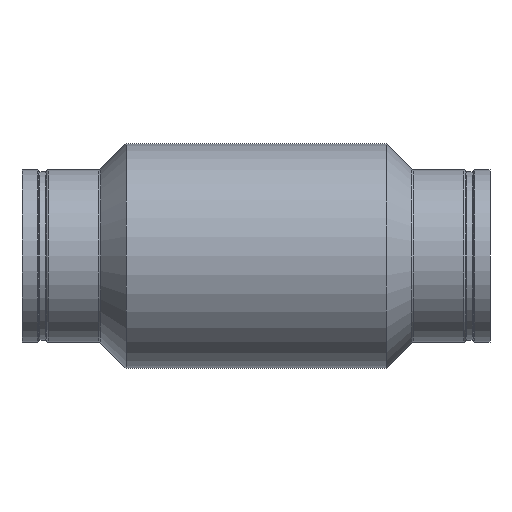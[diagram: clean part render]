
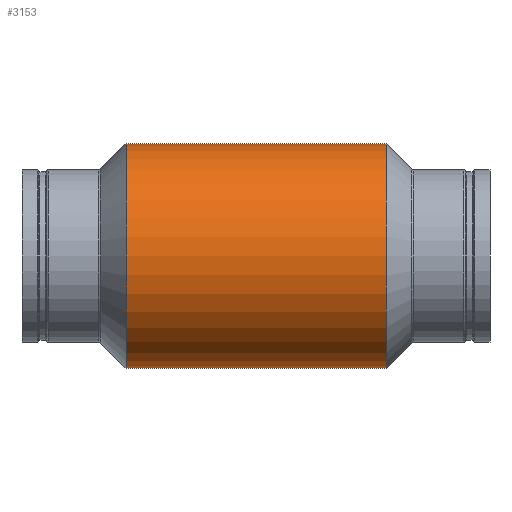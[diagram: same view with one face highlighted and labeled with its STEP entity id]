
A CAD part, front view. The second image highlights one B-rep face of the part: STEP entity #3153.
In plain terms, the highlighted cylindrical face has radius 109.537 mm (diameter 219.075 mm), a full revolution.
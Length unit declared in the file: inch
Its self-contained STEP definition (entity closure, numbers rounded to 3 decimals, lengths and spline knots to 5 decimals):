
#90=FACE_BOUND('',#428,.T.);
#248=FACE_OUTER_BOUND('',#427,.T.);
#427=EDGE_LOOP('',(#2169,#2170,#2171,#2172,#2173,#2174));
#428=EDGE_LOOP('',(#2175,#2176));
#583=B_SPLINE_CURVE_WITH_KNOTS('',3,(#4604,#4605,#4606,#4607,#4608,#4609,
#4610,#4611,#4612,#4613,#4614,#4615,#4616,#4617,#4618,#4619,#4620,#4621),
 .UNSPECIFIED.,.F.,.F.,(4,2,2,2,2,2,2,2,4),(0.85554,1.06944,
1.28335,1.49721,1.71108,1.92494,2.13881,
2.35271,2.56662),.UNSPECIFIED.);
#584=B_SPLINE_CURVE_WITH_KNOTS('',3,(#4627,#4628,#4629,#4630,#4631,#4632,
#4633,#4634,#4635,#4636,#4637,#4638,#4639,#4640,#4641,#4642,#4643,#4644,
#4645),.UNSPECIFIED.,.F.,.F.,(4,2,2,2,3,2,2,2,4),(2.56662,2.78052,
2.99443,3.20829,3.42216,3.63602,3.84989,
4.06379,4.2777),.UNSPECIFIED.);
#670=LINE('',#4844,#843);
#843=VECTOR('',#3936,4.3125);
#1084=CIRCLE('',#3433,4.3125);
#1085=CIRCLE('',#3434,4.3125);
#1086=CIRCLE('',#3436,4.3125);
#1087=CIRCLE('',#3437,4.3125);
#1191=VERTEX_POINT('',#4602);
#1192=VERTEX_POINT('',#4603);
#1257=VERTEX_POINT('',#4834);
#1258=VERTEX_POINT('',#4835);
#1259=VERTEX_POINT('',#4839);
#1260=VERTEX_POINT('',#4840);
#1504=EDGE_CURVE('',#1191,#1192,#583,.T.);
#1508=EDGE_CURVE('',#1192,#1191,#584,.T.);
#1602=EDGE_CURVE('',#1257,#1258,#1084,.T.);
#1603=EDGE_CURVE('',#1258,#1257,#1085,.T.);
#1604=EDGE_CURVE('',#1259,#1260,#1086,.T.);
#1605=EDGE_CURVE('',#1260,#1259,#1087,.T.);
#1606=EDGE_CURVE('',#1260,#1258,#670,.T.);
#2169=ORIENTED_EDGE('',*,*,#1604,.F.);
#2170=ORIENTED_EDGE('',*,*,#1605,.F.);
#2171=ORIENTED_EDGE('',*,*,#1606,.T.);
#2172=ORIENTED_EDGE('',*,*,#1602,.F.);
#2173=ORIENTED_EDGE('',*,*,#1603,.F.);
#2174=ORIENTED_EDGE('',*,*,#1606,.F.);
#2175=ORIENTED_EDGE('',*,*,#1504,.T.);
#2176=ORIENTED_EDGE('',*,*,#1508,.T.);
#2925=CYLINDRICAL_SURFACE('',#3438,4.3125);
#3153=ADVANCED_FACE('',(#248,#90),#2925,.T.);
#3433=AXIS2_PLACEMENT_3D('',#4836,#3924,#3925);
#3434=AXIS2_PLACEMENT_3D('',#4837,#3926,#3927);
#3436=AXIS2_PLACEMENT_3D('',#4841,#3930,#3931);
#3437=AXIS2_PLACEMENT_3D('',#4842,#3932,#3933);
#3438=AXIS2_PLACEMENT_3D('',#4843,#3934,#3935);
#3924=DIRECTION('center_axis',(-1.,0.,0.));
#3925=DIRECTION('ref_axis',(0.,1.,0.));
#3926=DIRECTION('center_axis',(-1.,0.,0.));
#3927=DIRECTION('ref_axis',(0.,1.,0.));
#3930=DIRECTION('center_axis',(1.,0.,0.));
#3931=DIRECTION('ref_axis',(0.,1.,0.));
#3932=DIRECTION('center_axis',(1.,0.,0.));
#3933=DIRECTION('ref_axis',(0.,1.,0.));
#3934=DIRECTION('center_axis',(1.,0.,0.));
#3935=DIRECTION('ref_axis',(0.,1.,0.));
#3936=DIRECTION('',(-1.,0.,0.));
#4602=CARTESIAN_POINT('',(-0.03287,4.35173,0.));
#4603=CARTESIAN_POINT('',(-0.48005,4.35173,0.));
#4604=CARTESIAN_POINT('Ctrl Pts',(-0.03287,4.35173,0.));
#4605=CARTESIAN_POINT('Ctrl Pts',(-0.03287,4.35173,0.02807));
#4606=CARTESIAN_POINT('Ctrl Pts',(-0.03849,4.35142,
0.05801));
#4607=CARTESIAN_POINT('Ctrl Pts',(-0.06132,4.35033,
0.11306));
#4608=CARTESIAN_POINT('Ctrl Pts',(-0.07854,4.34956,
0.13819));
#4609=CARTESIAN_POINT('Ctrl Pts',(-0.11825,4.3481,0.17784));
#4610=CARTESIAN_POINT('Ctrl Pts',(-0.14338,4.34733,0.19502));
#4611=CARTESIAN_POINT('Ctrl Pts',(-0.19846,4.34624,0.21781));
#4612=CARTESIAN_POINT('Ctrl Pts',(-0.22839,4.34594,0.22341));
#4613=CARTESIAN_POINT('Ctrl Pts',(-0.28453,4.34594,0.22341));
#4614=CARTESIAN_POINT('Ctrl Pts',(-0.31446,4.34624,0.21781));
#4615=CARTESIAN_POINT('Ctrl Pts',(-0.36954,4.34733,0.19502));
#4616=CARTESIAN_POINT('Ctrl Pts',(-0.39467,4.3481,0.17784));
#4617=CARTESIAN_POINT('Ctrl Pts',(-0.43438,4.34956,0.13819));
#4618=CARTESIAN_POINT('Ctrl Pts',(-0.4516,4.35033,0.11306));
#4619=CARTESIAN_POINT('Ctrl Pts',(-0.47443,4.35142,0.05801));
#4620=CARTESIAN_POINT('Ctrl Pts',(-0.48005,4.35173,0.02807));
#4621=CARTESIAN_POINT('Ctrl Pts',(-0.48005,4.35173,0.));
#4627=CARTESIAN_POINT('Ctrl Pts',(-0.48005,4.35173,0.));
#4628=CARTESIAN_POINT('Ctrl Pts',(-0.48005,4.35173,-0.02807));
#4629=CARTESIAN_POINT('Ctrl Pts',(-0.47443,4.35142,-0.05801));
#4630=CARTESIAN_POINT('Ctrl Pts',(-0.4516,4.35033,-0.11306));
#4631=CARTESIAN_POINT('Ctrl Pts',(-0.43438,4.34956,-0.13819));
#4632=CARTESIAN_POINT('Ctrl Pts',(-0.39467,4.3481,-0.17784));
#4633=CARTESIAN_POINT('Ctrl Pts',(-0.36954,4.34733,-0.19502));
#4634=CARTESIAN_POINT('Ctrl Pts',(-0.31446,4.34624,-0.21781));
#4635=CARTESIAN_POINT('Ctrl Pts',(-0.28453,4.34594,-0.22341));
#4636=CARTESIAN_POINT('Ctrl Pts',(-0.25646,4.34594,-0.22341));
#4637=CARTESIAN_POINT('Ctrl Pts',(-0.22839,4.34594,-0.22341));
#4638=CARTESIAN_POINT('Ctrl Pts',(-0.19846,4.34624,-0.21781));
#4639=CARTESIAN_POINT('Ctrl Pts',(-0.14338,4.34733,-0.19502));
#4640=CARTESIAN_POINT('Ctrl Pts',(-0.11825,4.3481,-0.17784));
#4641=CARTESIAN_POINT('Ctrl Pts',(-0.07854,4.34956,
-0.13819));
#4642=CARTESIAN_POINT('Ctrl Pts',(-0.06132,4.35033,
-0.11306));
#4643=CARTESIAN_POINT('Ctrl Pts',(-0.03849,4.35142,
-0.05801));
#4644=CARTESIAN_POINT('Ctrl Pts',(-0.03287,4.35173,-0.02807));
#4645=CARTESIAN_POINT('Ctrl Pts',(-0.03287,4.35173,0.));
#4834=CARTESIAN_POINT('',(-5.25646,4.35173,0.));
#4835=CARTESIAN_POINT('',(-5.25646,-4.27327,0.));
#4836=CARTESIAN_POINT('Origin',(-5.25646,0.03923,0.));
#4837=CARTESIAN_POINT('Origin',(-5.25646,0.03923,0.));
#4839=CARTESIAN_POINT('',(4.74354,4.35173,0.));
#4840=CARTESIAN_POINT('',(4.74354,-4.27327,0.));
#4841=CARTESIAN_POINT('Origin',(4.74354,0.03923,0.));
#4842=CARTESIAN_POINT('Origin',(4.74354,0.03923,0.));
#4843=CARTESIAN_POINT('Origin',(-0.25646,0.03923,0.));
#4844=CARTESIAN_POINT('',(-0.25646,-4.27327,0.));
